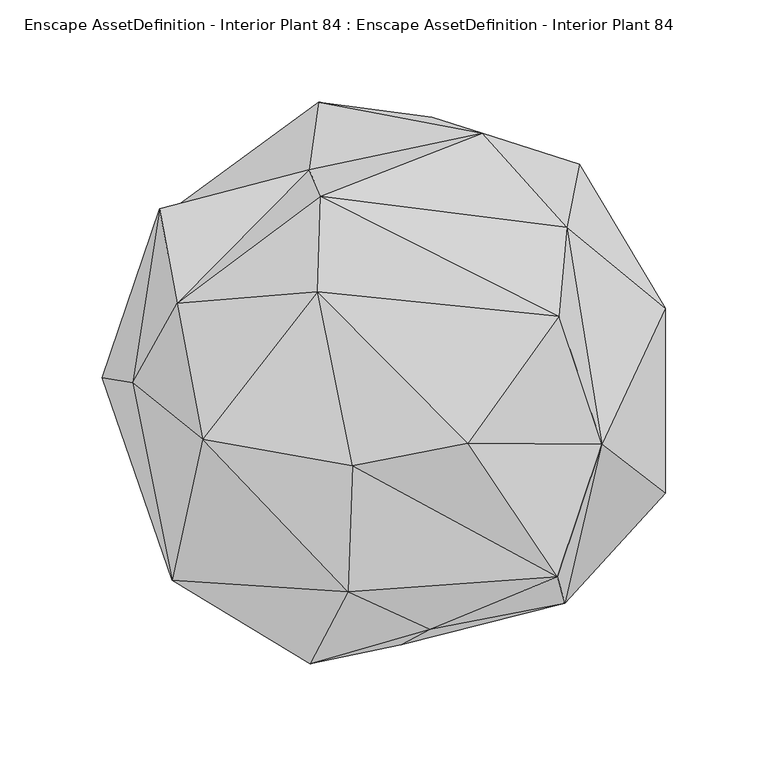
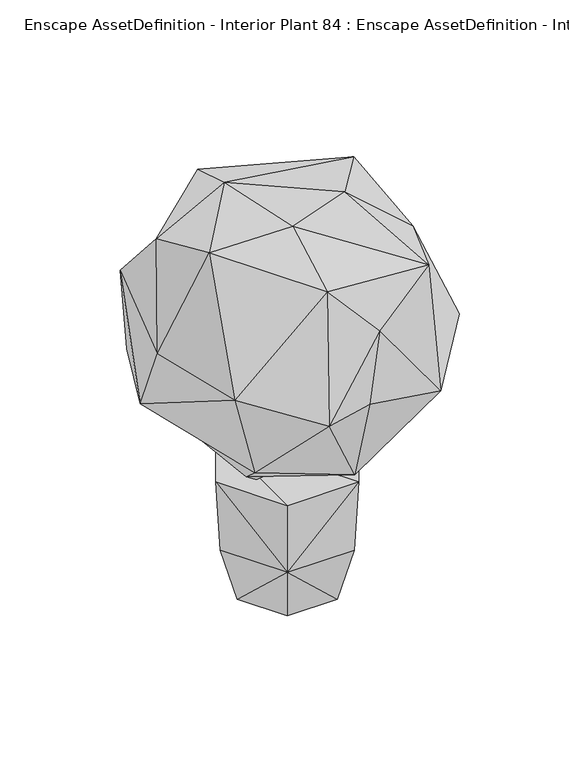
"""IFC4 building model written with IfcOpenShell, lengths in millimetres: geographic element geometry, Enscape AssetDefinition - Interior Plant 84 : Enscape AssetDefinition - Interior Plant 84."""

import ifcopenshell
import ifcopenshell.guid

model = None  # the IFC model being written
_history = None  # IfcOwnerHistory: only IFC2X3 demands one
_inside = {}  # id of a spatial element -> (the spatial element, [elements in it])
_under = {}  # id of a project, library or spatial element -> (it, [spatial elements below it])
_declared = {}  # id of a project -> (the project, [libraries it declares])
_typed = {}  # id of a type object -> (the type object, [elements of that type])
_made_of = {}  # id of a material, layer set ... -> (it, [elements and type objects made of it])


def new_model(schema):
    """Start an empty IFC model of exactly this schema.

    Asked for "IFC4X3", IfcOpenShell would pick the latest addendum, in which some entities
    have other attributes; the version numbers below select the first issue.
    IFC2X3 requires an IfcOwnerHistory on every rooted entity: one is made here for all.
    """
    global model, _history
    if schema == "IFC4X3":
        model = ifcopenshell.file(schema_version=(4, 3, 0, 0))
    else:
        model = ifcopenshell.file(schema=schema)
    _inside.clear()
    _under.clear()
    _declared.clear()
    _typed.clear()
    _made_of.clear()
    _history = None
    if model.schema == "IFC2X3":
        org = make("IfcOrganization", Name="unknown")
        user = make(
            "IfcPersonAndOrganization",
            ThePerson=make("IfcPerson", FamilyName="unknown"),
            TheOrganization=org,
        )
        app = make(
            "IfcApplication",
            ApplicationDeveloper=org,
            Version="unknown",
            ApplicationFullName="unknown",
            ApplicationIdentifier="unknown",
        )
        _history = make(
            "IfcOwnerHistory",
            OwningUser=user,
            OwningApplication=app,
            ChangeAction="ADDED",
            CreationDate=0,
        )
    return model


def make(cls, **values):
    """One entity of the class cls with the attributes given. An attribute that is None is left unset."""
    return model.create_entity(
        cls, **{name: value for name, value in values.items() if value is not None}
    )


def rooted(cls, **values):
    """An entity with a GlobalId (a new one), such as an element, a storey or a relation."""
    return make(cls, GlobalId=ifcopenshell.guid.new(), OwnerHistory=_history, **values)


def si_unit(unit_type, name, prefix=None):
    """IfcSIUnit, for example si_unit("LENGTHUNIT", "METRE", prefix="MILLI")."""
    return make("IfcSIUnit", UnitType=unit_type, Prefix=prefix, Name=name)


def assignment(units):
    """IfcUnitAssignment: the units of a project."""
    return None if units is None else make("IfcUnitAssignment", Units=units)


def point(xyz):
    """IfcCartesianPoint."""
    return None if xyz is None else make("IfcCartesianPoint", Coordinates=xyz)


def direction(xyz):
    """IfcDirection."""
    return None if xyz is None else make("IfcDirection", DirectionRatios=xyz)


def frame(location, z_axis=None, x_axis=None):
    """IfcAxis2Placement3D, a coordinate frame: its origin and axes. An axis left out is left unset."""
    return make(
        "IfcAxis2Placement3D",
        Location=point(location),
        Axis=direction(z_axis),
        RefDirection=direction(x_axis),
    )


def origin():
    """The frame at (0, 0, 0) with its axes left unset."""
    return frame((0.0, 0.0, 0.0))


def place(relative_to, where):
    """IfcLocalPlacement: puts the frame where relative to a parent placement (None: the world)."""
    return make(
        "IfcLocalPlacement", PlacementRelTo=relative_to, RelativePlacement=where
    )


def context(
    kind, dimensions, precision=None, world=None, true_north=None, identifier=None
):
    """IfcGeometricRepresentationContext, for example the 3D "Model" context."""
    return make(
        "IfcGeometricRepresentationContext",
        ContextIdentifier=identifier,
        ContextType=kind,
        CoordinateSpaceDimension=dimensions,
        Precision=precision,
        WorldCoordinateSystem=world,
        TrueNorth=true_north,
    )


def project(units=None, contexts=None):
    """IfcProject with its units and contexts."""
    return rooted(
        "IfcProject",
        Name="project",
        RepresentationContexts=contexts,
        UnitsInContext=assignment(units),
    )


def spatial(cls, under=None, at=None, **own):
    """A site, building, storey or space (cls), placed at a placement, below another one or the project."""
    s = rooted(cls, ObjectPlacement=at, **own)
    if under is not None:
        _under.setdefault(under.id(), (under, []))[1].append(s)
    return s


def faces_of(points, faces, orient=None, outer=None):
    """IfcFace entities. A face is a list of loops; a loop is a list of indices into points, from 0.

    orient and outer hold one flag for each loop. By default every Orientation is true, the
    first loop of a face is its IfcFaceOuterBound and the others are IfcFaceBound.
    """
    made = []
    for i, loops in enumerate(faces):
        bounds = []
        for j, loop in enumerate(loops):
            is_outer = j == 0 if outer is None else outer[i][j]
            bounds.append(
                make(
                    "IfcFaceOuterBound" if is_outer else "IfcFaceBound",
                    Bound=make("IfcPolyLoop", Polygon=[points[k] for k in loop]),
                    Orientation=True if orient is None else orient[i][j],
                )
            )
        made.append(make("IfcFace", Bounds=bounds))
    return made


def faceted_brep(points, faces, orient=None, outer=None, voids=None):
    """IfcFacetedBrep: a solid bounded by flat faces; with voids (closed shells), ...WithVoids."""
    shared = [point(p) for p in points]
    hull = make("IfcClosedShell", CfsFaces=faces_of(shared, faces, orient, outer))
    if voids is None:
        return make("IfcFacetedBrep", Outer=hull)
    return make(
        "IfcFacetedBrepWithVoids",
        Outer=hull,
        Voids=[
            make(cls, CfsFaces=faces_of(shared, fs, o, b)) for cls, fs, o, b in voids
        ],
    )


def shape(context_of_items, identifier, shape_type, items):
    """IfcShapeRepresentation: the items that make up one representation, for example the "Body"."""
    return make(
        "IfcShapeRepresentation",
        ContextOfItems=context_of_items,
        RepresentationIdentifier=identifier,
        RepresentationType=shape_type,
        Items=items,
    )


def source(mapping_origin, context_of_items, identifier, shape_type, items):
    """IfcRepresentationMap: a shape defined once, which mapped items show again and again."""
    return make(
        "IfcRepresentationMap",
        MappingOrigin=mapping_origin,
        MappedRepresentation=shape(context_of_items, identifier, shape_type, items),
    )


def transform(
    local_origin,
    x_axis=None,
    y_axis=None,
    z_axis=None,
    scale=None,
    scale2=None,
    scale3=None,
    uniform=True,
):
    """IfcCartesianTransformationOperator3D, or its non-uniform kind. x_axis, y_axis, z_axis: its Axis1, 2, 3."""
    if uniform:
        return make(
            "IfcCartesianTransformationOperator3D",
            Axis1=direction(x_axis),
            Axis2=direction(y_axis),
            LocalOrigin=point(local_origin),
            Scale=scale,
            Axis3=direction(z_axis),
        )
    return make(
        "IfcCartesianTransformationOperator3DnonUniform",
        Axis1=direction(x_axis),
        Axis2=direction(y_axis),
        LocalOrigin=point(local_origin),
        Scale=scale,
        Axis3=direction(z_axis),
        Scale2=scale2,
        Scale3=scale3,
    )


def mapped(mapping_source, mapping_target):
    """IfcMappedItem: shows the shape of a source again, moved by a transform."""
    return make(
        "IfcMappedItem", MappingSource=mapping_source, MappingTarget=mapping_target
    )


def made_of(thing, what):
    """Note that an element or type object is made of a material, layer set ...; save() writes the relation."""
    if what is not None:
        _made_of.setdefault(what.id(), (what, []))[1].append(thing)
    return thing


def element(
    cls,
    number,
    at=None,
    inside=None,
    cuts=None,
    type_object=None,
    material=None,
    context=None,
    identifier="Body",
    shape_type=None,
    held_by="IfcProductDefinitionShape",
    body=None,
    shapes=None,
    **own,
):
    """One element of the class cls, such as IfcWall. Its Tag is "e" and its number.

    at: its placement. inside: the storey or other place that contains it. cuts: it is an
    opening in that element (IfcRelVoidsElement). A single representation is given by context,
    identifier, shape_type and body (its items); several are given by shapes. held_by: the class
    of the entity that holds the representations. save() writes the other relations.
    """
    e = rooted(cls, Tag="e%d" % number, ObjectPlacement=at, **own)
    if body is not None:
        shapes = [shape(context, identifier, shape_type, body)]
    if shapes is not None:
        e.Representation = make(held_by, Representations=shapes)
    if inside is not None:
        _inside.setdefault(inside.id(), (inside, []))[1].append(e)
    if cuts is not None:
        rooted(
            "IfcRelVoidsElement", RelatingBuildingElement=cuts, RelatedOpeningElement=e
        )
    if type_object is not None:
        _typed.setdefault(type_object.id(), (type_object, []))[1].append(e)
    return made_of(e, material)


def aggregate(whole, parts):
    """IfcRelAggregates: a whole, such as a stair, and the parts it consists of."""
    return rooted("IfcRelAggregates", RelatingObject=whole, RelatedObjects=parts)


def save(model, path):
    """Write the relations noted so far, then the file.

    IfcRelAggregates (storeys below a building ...), IfcRelContainedInSpatialStructure (elements
    in a storey), IfcRelDefinesByType, IfcRelAssociatesMaterial and IfcRelDeclares: one each for
    every whole, place, type object, material and project.
    """
    for whole, parts in _under.values():
        aggregate(whole, parts)
    for where, things in _inside.values():
        rooted(
            "IfcRelContainedInSpatialStructure",
            RelatedElements=things,
            RelatingStructure=where,
        )
    for kind, things in _typed.values():
        rooted("IfcRelDefinesByType", RelatedObjects=things, RelatingType=kind)
    for what, things in _made_of.values():
        rooted("IfcRelAssociatesMaterial", RelatedObjects=things, RelatingMaterial=what)
    for by, libraries in _declared.values():
        rooted("IfcRelDeclares", RelatingContext=by, RelatedDefinitions=libraries)
    model.write(path)


def enscape_assetdefinition_interior_plant_84_enscape_4a8b0236(model_context):
    return source(origin(), model_context, "Body", "Brep", [
        faceted_brep([(-127.269596, 2.1805829, 273.9707764), (-142.2408113, 4.7809435, 226.730651), (-107.8795859, -94.4386766, 278.4953277), (-107.4178659, 87.5187248, 220.3548505), (-113.9337149, 87.4691236, 302.7975795), (-88.1536821, -93.4211427, 196.8162844), (-89.7219213, 18.3713826, 174.8025788), (-92.990791, -25.357708, 381.7894518), (-105.531966, 41.1323791, 360.1838489), (-40.9223063, 106.4802092, 292.322471), (-42.9591945, 64.9127286, 154.8057026), (-36.1971655, 139.666353, 259.5663093), (-63.103782, -35.4994798, 148.8102777), (8.4903778, -93.359504, 160.490021), (64.6257079, -15.5660575, 148.9897159), (13.4784743, -0.3891423, 116.1657309), (-31.4151277, -7.3951624, 116.1026357), (-24.334707, 27.8967982, 118.2099069), (19.4417974, 132.2617039, 231.9357392), (64.4276672, 57.9519307, 170.7787677), (16.4056123, 45.9567222, 151.055054), (91.7245284, 109.255257, 254.7273798), (44.0401877, 124.5302749, 310.2762472), (133.6574394, 38.6556531, 290.3351839), (122.5378903, -31.144878, 189.6935584), (85.4789182, 78.3529097, 332.751314), (-35.2857604, 93.6133413, 375.3078948), (81.5532116, 34.7128059, 382.4794666), (102.6092069, -27.8705411, 342.6976184), (-36.6789417, 46.9257472, 390.3516615), (37.1034621, -27.2472545, 400.0), (80.7650813, -92.8376126, 349.9665775), (84.6032589, -105.6340813, 227.2751501), (133.8011291, -51.8609608, 256.2190353), (-19.6339986, -38.4164049, 391.3717496), (-21.7157451, -100.0850726, 362.5540766), (18.3422058, -118.3517815, 319.7090295), (-40.3012125, -135.2723615, 252.807916), (4.1179061, -125.9438793, 253.8225478), (105.6949918, -56.5073276, 224.2105165)], [[[0, 1, 2]], [[3, 1, 4]], [[1, 5, 2]], [[1, 6, 5]], [[4, 1, 0]], [[1, 3, 6]], [[0, 2, 7]], [[7, 8, 0]], [[4, 0, 8]], [[9, 3, 4]], [[8, 9, 4]], [[10, 6, 3]], [[3, 9, 11]], [[11, 10, 3]], [[10, 12, 6]], [[5, 6, 12]], [[12, 13, 5]], [[14, 13, 12]], [[14, 12, 15]], [[16, 12, 17]], [[15, 12, 16]], [[17, 12, 10]], [[17, 10, 15]], [[16, 17, 15]], [[15, 10, 14]], [[11, 18, 10]], [[10, 19, 20]], [[14, 10, 20]], [[10, 18, 19]], [[21, 19, 18]], [[11, 22, 18]], [[22, 21, 18]], [[19, 14, 20]], [[21, 23, 19]], [[14, 19, 24]], [[19, 23, 24]], [[22, 25, 21]], [[21, 25, 23]], [[26, 22, 9]], [[26, 25, 22]], [[22, 11, 9]], [[26, 27, 25]], [[25, 27, 28]], [[25, 28, 23]], [[26, 9, 8]], [[29, 27, 26]], [[26, 8, 29]], [[27, 29, 30]], [[27, 30, 28]], [[28, 31, 32]], [[30, 31, 28]], [[33, 28, 32]], [[23, 28, 33]], [[31, 30, 34]], [[30, 29, 34]], [[8, 7, 29]], [[34, 29, 7]], [[34, 7, 35]], [[31, 34, 35]], [[31, 35, 36]], [[31, 36, 32]], [[7, 2, 35]], [[35, 2, 37]], [[35, 37, 36]], [[36, 37, 38]], [[36, 38, 32]], [[2, 5, 37]], [[38, 37, 13]], [[37, 5, 13]], [[32, 38, 13]], [[32, 13, 39]], [[13, 14, 39]], [[33, 32, 39]], [[23, 39, 24]], [[24, 39, 14]], [[39, 23, 33]]]),
        faceted_brep([(19.8965869, 39.3588087, 0.0), (-52.8398386, -2.6353724, 0.0), (-28.5941198, 39.3588087, 0.0), (-69.0598119, -2.6353724, 55.7571251), (-36.7044705, -58.6769712, 55.7571251), (44.1423057, -2.6353724, 0.0), (19.8965869, -44.6299186, 0.0), (-28.5941198, -44.6299186, 0.0), (28.0069404, 53.4062281, 55.7571251), (-36.7044705, 53.4062281, 55.7571251), (-73.4530751, -2.6353724, 127.0587895), (-38.900738, 57.2104832, 127.0587895), (60.3626458, -2.6353724, 55.7571251), (30.2035693, 57.2104832, 127.0587895), (30.2032051, -62.4815959, 127.0587895), (64.7555395, -2.6353724, 127.0587895), (-38.900738, -62.4815959, 127.0587895), (28.0069404, -58.6769712, 55.7571251)], [[[0, 1, 2]], [[3, 1, 4]], [[1, 0, 5]], [[1, 5, 6]], [[1, 6, 7]], [[3, 2, 1]], [[4, 1, 7]], [[0, 2, 8]], [[8, 5, 0]], [[9, 2, 3]], [[8, 2, 9]], [[3, 4, 10]], [[10, 9, 3]], [[11, 9, 10]], [[11, 8, 9]], [[12, 5, 8]], [[13, 8, 11]], [[13, 12, 8]], [[11, 14, 15]], [[11, 15, 13]], [[16, 11, 10]], [[11, 16, 14]], [[10, 4, 16]], [[16, 4, 14]], [[14, 17, 15]], [[14, 4, 17]], [[15, 12, 13]], [[15, 17, 12]], [[17, 5, 12]], [[6, 5, 17]], [[4, 6, 17]], [[7, 6, 4]]]),
    ])


if __name__ == "__main__":
    model = new_model("IFC4")
    model_context = context("Model", 3, world=origin())
    ifc_project = project(units=[si_unit("LENGTHUNIT", "METRE", prefix="MILLI")], contexts=[model_context])
    site = spatial("IfcSite", under=ifc_project)
    building = spatial("IfcBuilding", under=site)
    placement = place(None, origin())
    enscape_assetdefinition_interior_plant_84_enscape_shape = enscape_assetdefinition_interior_plant_84_enscape_4a8b0236(model_context)
    element("IfcGeographicElement", 1, ObjectType="Enscape AssetDefinition - Interior Plant 84 : Enscape AssetDefinition - Interior Plant 84", at=placement, inside=building, context=model_context, shape_type="MappedRepresentation", body=[
        mapped(enscape_assetdefinition_interior_plant_84_enscape_shape, transform((0.0, 0.0, 0.0), x_axis=(1.0, 0.0, 0.0), y_axis=(0.0, 1.0, 0.0), z_axis=(0.0, 0.0, 1.0))),
    ])
    save(model, "model.ifc")
